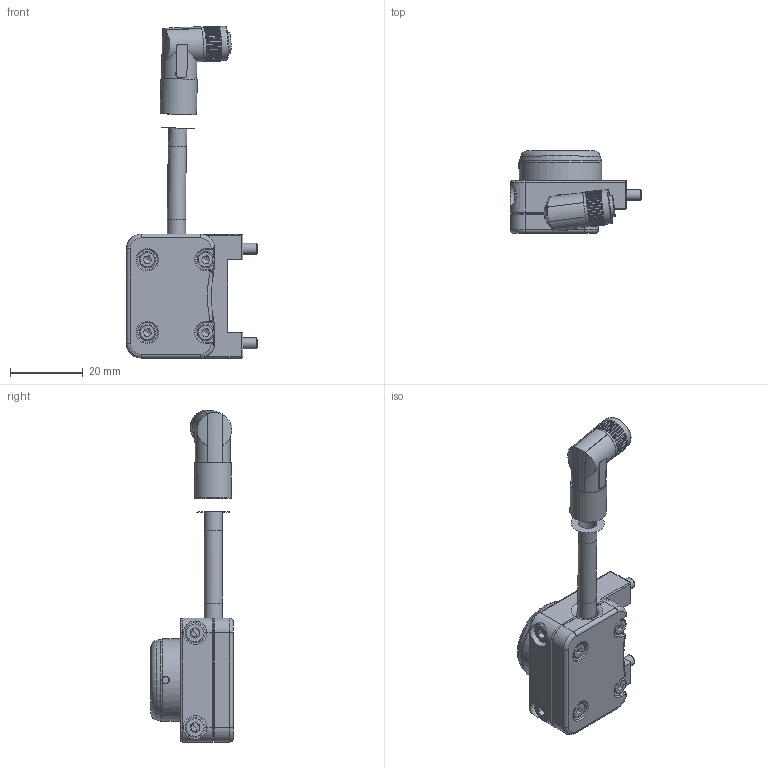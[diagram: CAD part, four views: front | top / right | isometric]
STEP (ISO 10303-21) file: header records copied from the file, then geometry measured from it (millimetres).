
FILE_DESCRIPTION(/* description */ (''),/* implementation_level */ '2;1');
FILE_NAME(/* name */ 'G-SEK100-U-1E12-40-M8-BW_.stp',/* time_stamp */ '2025-11-25T10:38:16+01:00',/* author */ ('ysplieth'),/* organization */ (''),/* preprocessor_version */ 'ST-DEVELOPER v20.1',/* originating_system */ 'Autodesk Inventor 2026',/* authorisation */ '');
FILE_SCHEMA (('AUTOMOTIVE_DESIGN { 1 0 10303 214 3 1 1 }'));
Length unit declared in the file: millimetre
Products named in the file (1): Bauteil6
Bounding box: 36 x 22.7 x 91.21 mm (x, y, z)
Volume: 16713.9 mm3; surface area: 12238.1 mm2
Topology: 2 solids, 12 shells, 784 faces, 1979 edges, 1276 vertices
Faces by surface type: plane 388, cylinder 292, cone 68, torus 24, bspline 12
Full cylindrical faces by diameter (mm): 0.7 x8, 1 x12, 1.6 x12, 2 x17, 2.013 x4, 2.5 x4, 2.9 x4, 3 x2, 3.4 x2, 4.5 x4, 5 x2, 5.5 x4, 5.8 x2, 6.5 x2, 7.75 x2, 9.35 x1, 10 x1, 14 x1, 15.9 x1, 17 x1, 17.1 x1, 18 x1, 22.6 x1
Entity records: 25946 total; most frequent: CARTESIAN_POINT 5922, DIRECTION 4132, ORIENTED_EDGE 3908, EDGE_CURVE 1954, AXIS2_PLACEMENT_3D 1554, VERTEX_POINT 1276, LINE 1024, VECTOR 1024
